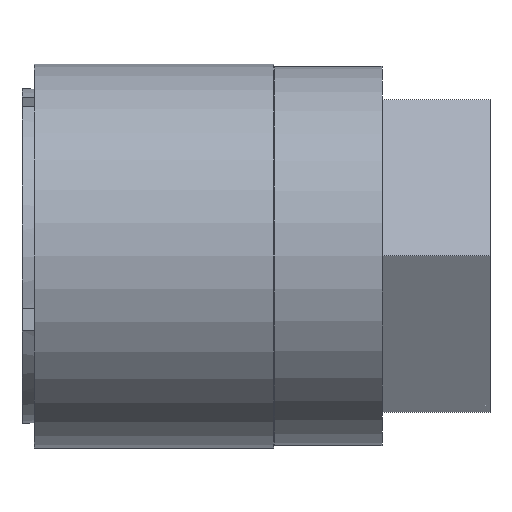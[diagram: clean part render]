
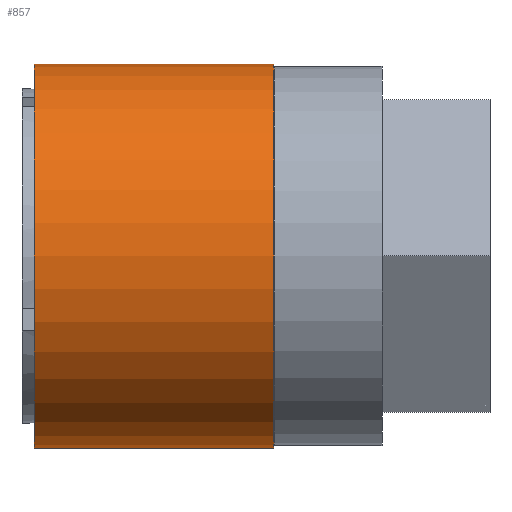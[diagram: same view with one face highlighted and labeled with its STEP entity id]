
A CAD part, front view. The second image highlights one B-rep face of the part: STEP entity #857.
In plain terms, the highlighted cylindrical face has radius 8 mm (diameter 16 mm), a partial arc.
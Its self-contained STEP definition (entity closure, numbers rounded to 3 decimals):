
#140 = EDGE_LOOP ( 'NONE', ( #294, #254, #253, #217 ) ) ;
#217 = ORIENTED_EDGE ( 'NONE', *, *, #1633, .F. ) ;
#253 = ORIENTED_EDGE ( 'NONE', *, *, #1632, .T. ) ;
#254 = ORIENTED_EDGE ( 'NONE', *, *, #1625, .T. ) ;
#294 = ORIENTED_EDGE ( 'NONE', *, *, #1629, .F. ) ;
#361 = FACE_OUTER_BOUND ( 'NONE', #140, .T. ) ;
#373 = CYLINDRICAL_SURFACE ( 'NONE', #1227, 8. ) ;
#502 = CARTESIAN_POINT ( 'NONE',  ( 0.5, 0., -8. ) ) ;
#503 = CARTESIAN_POINT ( 'NONE',  ( 10.5, 0., 8. ) ) ;
#506 = CARTESIAN_POINT ( 'NONE',  ( 0.5, 0., 8. ) ) ;
#521 = CARTESIAN_POINT ( 'NONE',  ( 10.5, 0., -8. ) ) ;
#688 = CARTESIAN_POINT ( 'NONE',  ( 0., 0., 0. ) ) ;
#689 = DIRECTION ( 'NONE',  ( -1., 0., 0. ) ) ;
#693 = DIRECTION ( 'NONE',  ( 0., 0., 1. ) ) ;
#857 = ADVANCED_FACE ( 'NONE', ( #361 ), #373, .T. ) ;
#908 = VERTEX_POINT ( 'NONE', #521 ) ;
#924 = VERTEX_POINT ( 'NONE', #506 ) ;
#928 = VERTEX_POINT ( 'NONE', #503 ) ;
#929 = VERTEX_POINT ( 'NONE', #502 ) ;
#1158 = CIRCLE ( 'NONE', #1694, 8. ) ;
#1161 = LINE ( 'NONE', #1253, #1162 ) ;
#1162 = VECTOR ( 'NONE', #1252, 1000. ) ;
#1165 = LINE ( 'NONE', #1229, #1166 ) ;
#1166 = VECTOR ( 'NONE', #1235, 1000. ) ;
#1168 = CIRCLE ( 'NONE', #1698, 8. ) ;
#1227 = AXIS2_PLACEMENT_3D ( 'NONE', #688, #689, #693 ) ;
#1229 = CARTESIAN_POINT ( 'NONE',  ( 0., 0., 8. ) ) ;
#1230 = DIRECTION ( 'NONE',  ( 0., 0., 1. ) ) ;
#1233 = CARTESIAN_POINT ( 'NONE',  ( 0.5, 0., 0. ) ) ;
#1234 = DIRECTION ( 'NONE',  ( -1., 0., 0. ) ) ;
#1235 = DIRECTION ( 'NONE',  ( -1., 0., 0. ) ) ;
#1248 = DIRECTION ( 'NONE',  ( 0., 0., 1. ) ) ;
#1249 = DIRECTION ( 'NONE',  ( -1., 0., 0. ) ) ;
#1252 = DIRECTION ( 'NONE',  ( -1., 0., 0. ) ) ;
#1253 = CARTESIAN_POINT ( 'NONE',  ( 0., 0., -8. ) ) ;
#1291 = CARTESIAN_POINT ( 'NONE',  ( 10.5, 0., 0. ) ) ;
#1625 = EDGE_CURVE ( 'NONE', #908, #928, #1158, .T. ) ;
#1629 = EDGE_CURVE ( 'NONE', #908, #929, #1161, .T. ) ;
#1632 = EDGE_CURVE ( 'NONE', #928, #924, #1165, .T. ) ;
#1633 = EDGE_CURVE ( 'NONE', #929, #924, #1168, .T. ) ;
#1694 = AXIS2_PLACEMENT_3D ( 'NONE', #1291, #1249, #1248 ) ;
#1698 = AXIS2_PLACEMENT_3D ( 'NONE', #1233, #1234, #1230 ) ;
